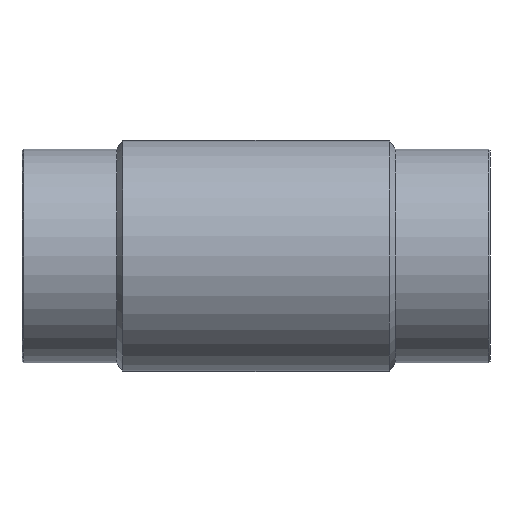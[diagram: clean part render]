
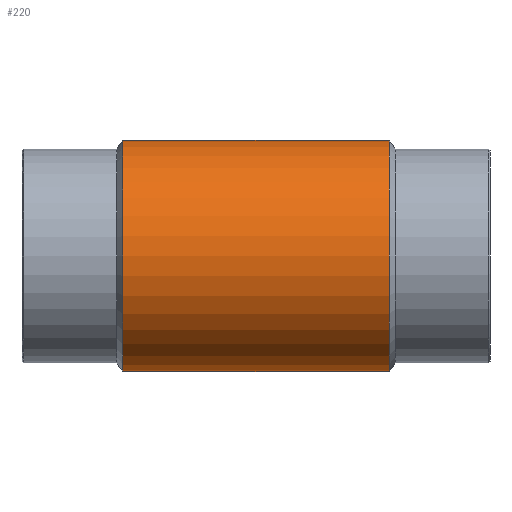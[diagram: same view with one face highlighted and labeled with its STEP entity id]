
A CAD part, front view. The second image highlights one B-rep face of the part: STEP entity #220.
In plain terms, the highlighted cylindrical face has radius 270 mm (diameter 540 mm), a full revolution.
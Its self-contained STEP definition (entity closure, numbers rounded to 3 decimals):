
#34=CIRCLE('',#251,270.);
#40=CIRCLE('',#262,270.);
#62=ORIENTED_EDGE('',*,*,#100,.T.);
#63=ORIENTED_EDGE('',*,*,#101,.T.);
#64=ORIENTED_EDGE('',*,*,#93,.F.);
#65=ORIENTED_EDGE('',*,*,#99,.T.);
#93=EDGE_CURVE('',#114,#114,#34,.T.);
#99=EDGE_CURVE('',#120,#120,#40,.T.);
#100=EDGE_CURVE('',#121,#122,#130,.F.);
#101=EDGE_CURVE('',#122,#121,#131,.T.);
#114=VERTEX_POINT('',#371);
#120=VERTEX_POINT('',#388);
#121=VERTEX_POINT('',#391);
#122=VERTEX_POINT('',#392);
#130=ELLIPSE('',#264,392.588,270.);
#131=ELLIPSE('',#265,392.588,270.);
#149=EDGE_LOOP('',(#62,#63));
#150=EDGE_LOOP('',(#64));
#151=EDGE_LOOP('',(#65));
#185=FACE_BOUND('',#149,.T.);
#186=FACE_BOUND('',#150,.T.);
#187=FACE_BOUND('',#151,.T.);
#209=CYLINDRICAL_SURFACE('',#263,270.);
#220=ADVANCED_FACE('',(#185,#186,#187),#209,.T.);
#251=AXIS2_PLACEMENT_3D('',#370,#297,#298);
#262=AXIS2_PLACEMENT_3D('',#387,#319,#320);
#263=AXIS2_PLACEMENT_3D('',#389,#321,#322);
#264=AXIS2_PLACEMENT_3D('',#390,#323,#324);
#265=AXIS2_PLACEMENT_3D('',#393,#325,#326);
#297=DIRECTION('',(-1.,0.,0.));
#298=DIRECTION('',(0.,0.,1.));
#319=DIRECTION('',(-1.,0.,0.));
#320=DIRECTION('',(0.,0.,1.));
#321=DIRECTION('',(-1.,0.,0.));
#322=DIRECTION('',(0.,0.,1.));
#323=DIRECTION('',(0.688,0.726,0.));
#324=DIRECTION('',(-0.726,0.688,0.));
#325=DIRECTION('',(0.688,-0.726,0.));
#326=DIRECTION('',(-0.726,-0.688,0.));
#370=CARTESIAN_POINT('',(-311.,0.,0.));
#371=CARTESIAN_POINT('',(-311.,0.,270.));
#387=CARTESIAN_POINT('',(311.,0.,0.));
#388=CARTESIAN_POINT('',(311.,0.,270.));
#389=CARTESIAN_POINT('',(-60.,0.,0.));
#390=CARTESIAN_POINT('',(0.,0.,0.));
#391=CARTESIAN_POINT('',(0.,0.,270.));
#392=CARTESIAN_POINT('',(0.,0.,-270.));
#393=CARTESIAN_POINT('',(0.,0.,0.));
